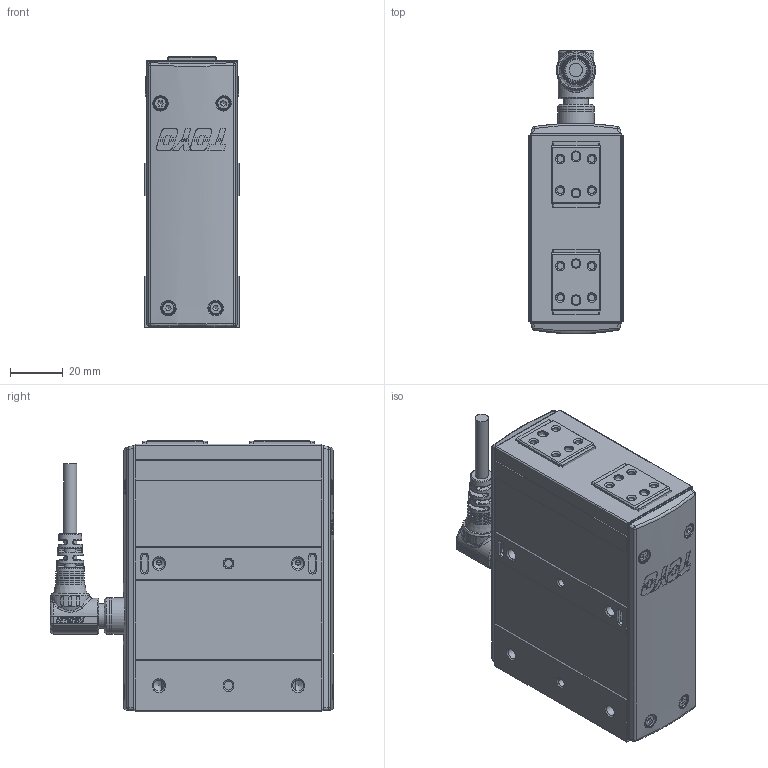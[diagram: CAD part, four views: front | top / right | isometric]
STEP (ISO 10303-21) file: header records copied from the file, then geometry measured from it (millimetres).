
FILE_DESCRIPTION(/* description */ ('STEP AP214'),/* implementation_level */ '2;1');
FILE_NAME(/* name */ 'D:\2025.02.25 帶電匯整給泊舟\CHZ2-S14-WM.stp',/* time_stamp */ '2025-02-26T10:46:11+08:00',/* author */ ('T10033'),/* organization */ (''),/* preprocessor_version */ 'ST-DEVELOPER v18.1',/* originating_system */ 'Autodesk Inventor 2020',/* authorisation */ '');
FILE_SCHEMA (('CONFIG_CONTROL_DESIGN'));
Products named in the file (5): CHZ2-S14; 慶陞金屬頭; 62TW34T6SE34_Shrinkwrap_1; 6T3Y7E45_Shrinkwrap_1; M12-14PIN 線端90度接頭-05中繼線
Assembly tree (5 placements, depth 2):
  CHZ2-S14
    慶陞金屬頭
    62TW34T6SE34_Shrinkwrap_1
    6T3Y7E45_Shrinkwrap_1  x2
    M12-14PIN 線端90度接頭-05中繼線
Bounding box: 36 x 107.8 x 103.5 mm (x, y, z)
Volume: 287094 mm3; surface area: 60298.7 mm2
Topology: 37 solids, 41 shells, 2696 faces, 7276 edges, 4769 vertices
Faces by surface type: plane 1526, cylinder 506, cone 378, bspline 157, torus 109, sphere 20
Full cylindrical faces by diameter (mm): 0.6 x14, 0.65 x14, 1 x18, 2.05 x16, 2.5 x20, 2.7 x8, 3 x5, 4.2 x12, 4.5 x8, 4.7 x4, 5 x1, 5.5 x2, 6.8 x2, 8 x1, 8.9 x1, 9.5 x2, 9.6 x1, 10.5 x2, 10.9 x1, 11 x2, 11.2 x1, 11.25 x1, 12 x1, 13 x1, 13.8 x1, 14 x2, 14.4 x1
Entity records: 114012 total; most frequent: CARTESIAN_POINT 46679, DIRECTION 13626, ORIENTED_EDGE 13604, EDGE_CURVE 6810, AXIS2_PLACEMENT_3D 5025, VERTEX_POINT 4492, LINE 3576, VECTOR 3576
